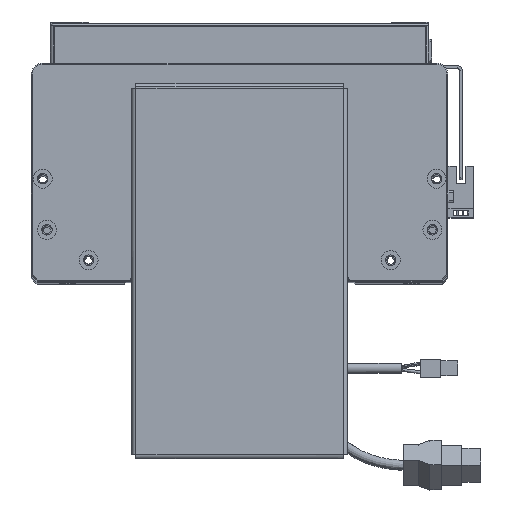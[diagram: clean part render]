
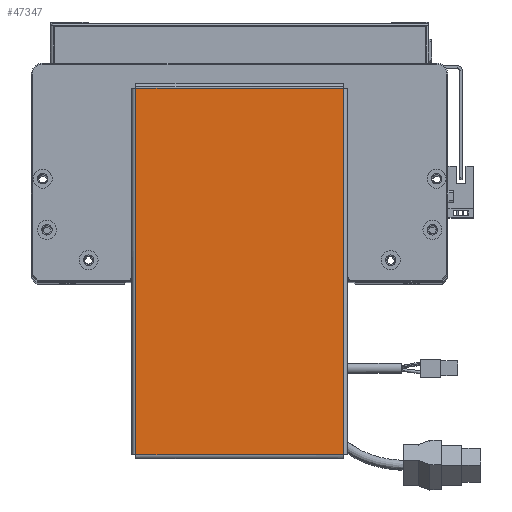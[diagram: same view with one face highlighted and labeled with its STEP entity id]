
A CAD part, top view. The second image highlights one B-rep face of the part: STEP entity #47347.
In plain terms, the highlighted planar face has unit normal (0, 0, 1).
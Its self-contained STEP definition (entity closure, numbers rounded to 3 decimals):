
#227 = ORIENTED_EDGE ( 'NONE', *, *, #59175, .T. ) ;
#1809 = VECTOR ( 'NONE', #51685, 1000. ) ;
#5320 = ORIENTED_EDGE ( 'NONE', *, *, #59070, .T. ) ;
#6301 = EDGE_CURVE ( 'NONE', #17300, #41233, #10519, .T. ) ;
#6323 = VERTEX_POINT ( 'NONE', #20878 ) ;
#7300 = VECTOR ( 'NONE', #11163, 1000. ) ;
#7323 = EDGE_CURVE ( 'NONE', #14989, #17300, #7325, .T. ) ;
#7325 = LINE ( 'NONE', #31997, #29015 ) ;
#10519 = LINE ( 'NONE', #50600, #63212 ) ;
#11163 = DIRECTION ( 'NONE',  ( -1., 0., 0. ) ) ;
#11374 = CARTESIAN_POINT ( 'NONE',  ( 96.793, 54.763, 0. ) ) ;
#14989 = VERTEX_POINT ( 'NONE', #23669 ) ;
#16152 = FACE_OUTER_BOUND ( 'NONE', #27469, .T. ) ;
#17300 = VERTEX_POINT ( 'NONE', #55051 ) ;
#18066 = LINE ( 'NONE', #11374, #7300 ) ;
#20878 = CARTESIAN_POINT ( 'NONE',  ( 96.763, 54.763, 0. ) ) ;
#22125 = ORIENTED_EDGE ( 'NONE', *, *, #6301, .T. ) ;
#23669 = CARTESIAN_POINT ( 'NONE',  ( -96.763, 54.763, 0. ) ) ;
#23856 = PLANE ( 'NONE',  #47596 ) ;
#26033 = DIRECTION ( 'NONE',  ( 1., 0., 0. ) ) ;
#26989 = DIRECTION ( 'NONE',  ( 0., -1., 0. ) ) ;
#27469 = EDGE_LOOP ( 'NONE', ( #22125, #227, #5320, #54984 ) ) ;
#29015 = VECTOR ( 'NONE', #26989, 1000. ) ;
#29313 = DIRECTION ( 'NONE',  ( 0., 0., 1. ) ) ;
#31997 = CARTESIAN_POINT ( 'NONE',  ( -96.763, 54.793, 0. ) ) ;
#33113 = CARTESIAN_POINT ( 'NONE',  ( 96.763, -54.763, 0. ) ) ;
#41233 = VERTEX_POINT ( 'NONE', #33113 ) ;
#41901 = CARTESIAN_POINT ( 'NONE',  ( 96.763, -54.793, 0. ) ) ;
#43601 = DIRECTION ( 'NONE',  ( 1., 0., 0. ) ) ;
#47347 = ADVANCED_FACE ( 'NONE', ( #16152 ), #23856, .T. ) ;
#47596 = AXIS2_PLACEMENT_3D ( 'NONE', #59213, #29313, #43601 ) ;
#50600 = CARTESIAN_POINT ( 'NONE',  ( -96.793, -54.763, 0. ) ) ;
#51685 = DIRECTION ( 'NONE',  ( 0., 1., 0. ) ) ;
#54984 = ORIENTED_EDGE ( 'NONE', *, *, #7323, .T. ) ;
#55051 = CARTESIAN_POINT ( 'NONE',  ( -96.763, -54.763, 0. ) ) ;
#59070 = EDGE_CURVE ( 'NONE', #6323, #14989, #18066, .T. ) ;
#59175 = EDGE_CURVE ( 'NONE', #41233, #6323, #59979, .T. ) ;
#59213 = CARTESIAN_POINT ( 'NONE',  ( 0., 0., 0. ) ) ;
#59979 = LINE ( 'NONE', #41901, #1809 ) ;
#63212 = VECTOR ( 'NONE', #26033, 1000. ) ;
